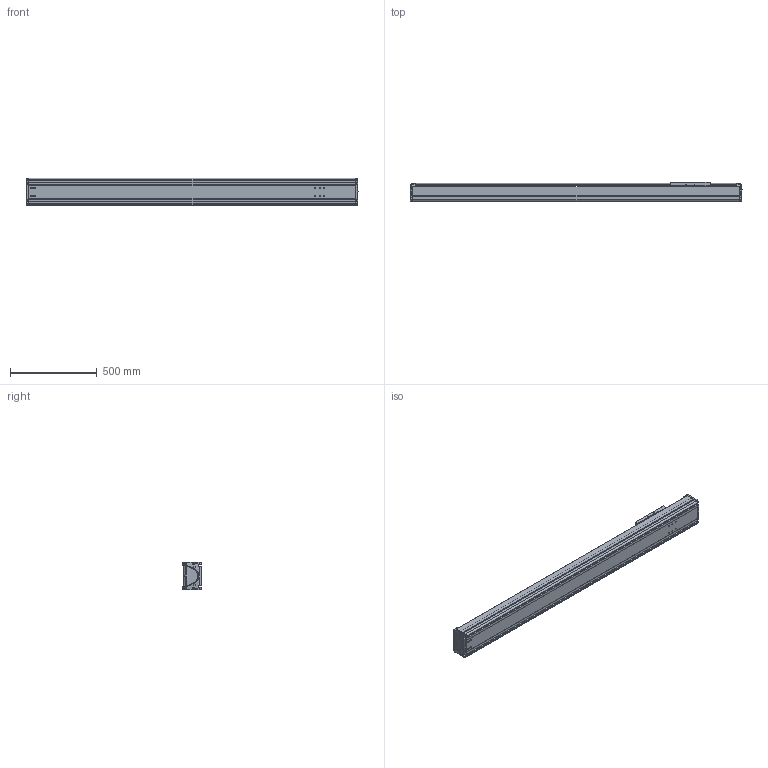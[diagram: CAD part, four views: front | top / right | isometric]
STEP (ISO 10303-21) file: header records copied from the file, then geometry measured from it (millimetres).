
FILE_DESCRIPTION((''),'2;1');
FILE_NAME('BE50G-ST-L_B-E5_IGS_PRT','2017-06-18T',(' '),(''),'PRO/ENGINEER BY PARAMETRIC TECHNOLOGY CORPORATION, 2015030','PRO/ENGINEER BY PARAMETRIC TECHNOLOGY CORPORATION, 2015030','');
FILE_SCHEMA(('CONFIG_CONTROL_DESIGN'));
Length unit declared in the file: millimetre
Products named in the file (1): BE50G-ST-L_B-E5_IGS_PRT
Bounding box: 1914.98 x 110 x 160 mm (x, y, z)
Volume: 7974702.4 mm3; surface area: 2885222.4 mm2
Topology: 3 solids, 116 shells, 1774 faces, 4778 edges, 3089 vertices
Faces by surface type: cylinder 834, plane 615, bspline 102, cone 96, torus 87, sphere 40
Entity records: 61775 total; most frequent: CARTESIAN_POINT 17878, ORIENTED_EDGE 9038, DIRECTION 8924, EDGE_CURVE 4742, AXIS2_PLACEMENT_3D 3370, VERTEX_POINT 3081, VECTOR 2184, LINE 2184
